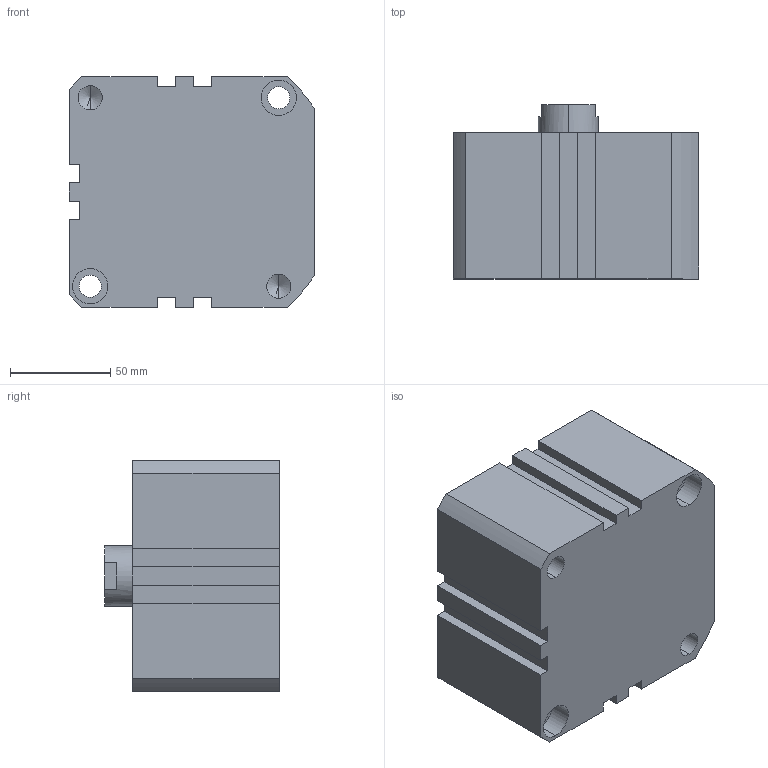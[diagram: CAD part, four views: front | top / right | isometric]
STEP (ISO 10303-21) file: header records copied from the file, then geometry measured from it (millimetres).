
FILE_DESCRIPTION (( 'STEP AP203' ), '1' );
FILE_NAME ('XC#2-100D-10.STEP', '2016-05-23T08:18:17', ( '' ), ( '' ), 'SwSTEP 2.0', 'SolidWorks 2014', '' );
FILE_SCHEMA (( 'CONFIG_CONTROL_DESIGN' ));
Length unit declared in the file: millimetre
Products named in the file (1): XC#2-100D-10
Bounding box: 122.5 x 87 x 115 mm (x, y, z)
Volume: 945287 mm3; surface area: 80488.4 mm2
Topology: 1 solids, 1 shells, 111 faces, 279 edges, 174 vertices
Faces by surface type: cylinder 47, plane 46, cone 18
Entity records: 3327 total; most frequent: DIRECTION 596, CARTESIAN_POINT 551, ORIENTED_EDGE 530, EDGE_CURVE 265, AXIS2_PLACEMENT_3D 219, VERTEX_POINT 174, VECTOR 158, LINE 158
